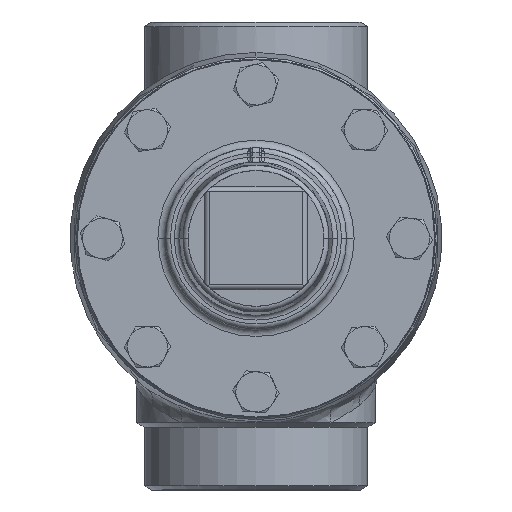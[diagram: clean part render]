
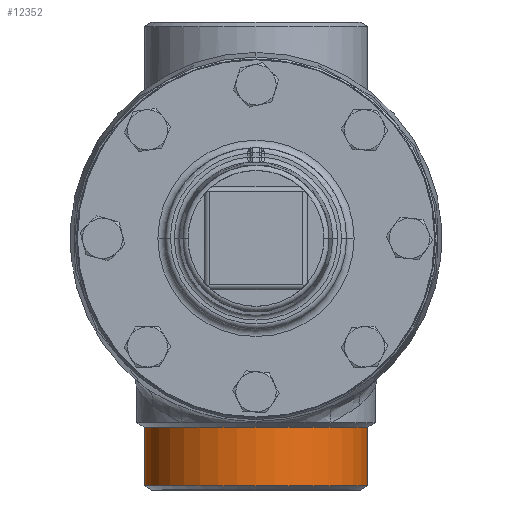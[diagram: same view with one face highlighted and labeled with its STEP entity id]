
A CAD part, front view. The second image highlights one B-rep face of the part: STEP entity #12352.
In plain terms, the highlighted cylindrical face has radius 44.45 mm (diameter 88.9 mm), a partial arc.
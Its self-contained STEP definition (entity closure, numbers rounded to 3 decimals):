
#1246 = LINE ( 'NONE', #1247, #1248 ) ;
#1247 = CARTESIAN_POINT ( 'NONE',  ( -44.45, -74., -75. ) ) ;
#1248 = VECTOR ( 'NONE', #1249, 1000. ) ;
#1249 = DIRECTION ( 'NONE',  ( 0., 0., -1. ) ) ;
#2738 = VERTEX_POINT ( 'NONE', #30944 ) ;
#19260 = FACE_OUTER_BOUND ( 'NONE', #11896, .T. ) ;
#19261 = CYLINDRICAL_SURFACE ( 'NONE', #19282, 44.45 ) ;
#19282 = AXIS2_PLACEMENT_3D ( 'NONE', #19283, #19284, #19285 ) ;
#19283 = CARTESIAN_POINT ( 'NONE',  ( 0., -74., -75. ) ) ;
#19284 = DIRECTION ( 'NONE',  ( 0., 0., -1. ) ) ;
#19285 = DIRECTION ( 'NONE',  ( -1., 0., 0. ) ) ;
#3154 = VERTEX_POINT ( 'NONE', #31146 ) ;
#3573 = EDGE_CURVE ( 'NONE', #3154, #2738, #31356, .T. ) ;
#5852 = EDGE_CURVE ( 'NONE', #3154, #8157, #1246, .T. ) ;
#6552 = ORIENTED_EDGE ( 'NONE', *, *, #5852, .F. ) ;
#7531 = EDGE_CURVE ( 'NONE', #10266, #8157, #9716, .T. ) ;
#8157 = VERTEX_POINT ( 'NONE', #11478 ) ;
#8229 = ORIENTED_EDGE ( 'NONE', *, *, #7531, .T. ) ;
#9216 = EDGE_CURVE ( 'NONE', #2738, #10266, #13137, .T. ) ;
#9716 = CIRCLE ( 'NONE', #9717, 44.45 ) ;
#9717 = AXIS2_PLACEMENT_3D ( 'NONE', #9718, #9719, #9720 ) ;
#9718 = CARTESIAN_POINT ( 'NONE',  ( 0., -74., -98.239 ) ) ;
#9719 = DIRECTION ( 'NONE',  ( 0., 0., 1. ) ) ;
#9720 = DIRECTION ( 'NONE',  ( 1., 0., 0. ) ) ;
#9926 = ORIENTED_EDGE ( 'NONE', *, *, #9216, .T. ) ;
#10266 = VERTEX_POINT ( 'NONE', #14948 ) ;
#10899 = ORIENTED_EDGE ( 'NONE', *, *, #3573, .T. ) ;
#11478 = CARTESIAN_POINT ( 'NONE',  ( -44.45, -74., -98.239 ) ) ;
#11896 = EDGE_LOOP ( 'NONE', ( #10899, #9926, #8229, #6552 ) ) ;
#12352 = ADVANCED_FACE ( 'NONE', ( #19260 ), #19261, .T. ) ;
#13137 = LINE ( 'NONE', #13138, #13139 ) ;
#13138 = CARTESIAN_POINT ( 'NONE',  ( 44.45, -74., -75. ) ) ;
#13139 = VECTOR ( 'NONE', #13140, 1000. ) ;
#13140 = DIRECTION ( 'NONE',  ( 0., 0., -1. ) ) ;
#30944 = CARTESIAN_POINT ( 'NONE',  ( 44.45, -74., -75. ) ) ;
#31146 = CARTESIAN_POINT ( 'NONE',  ( -44.45, -74., -75. ) ) ;
#14948 = CARTESIAN_POINT ( 'NONE',  ( 44.45, -74., -98.239 ) ) ;
#31356 = CIRCLE ( 'NONE', #31357, 44.45 ) ;
#31357 = AXIS2_PLACEMENT_3D ( 'NONE', #31358, #31359, #31360 ) ;
#31358 = CARTESIAN_POINT ( 'NONE',  ( 0., -74., -75. ) ) ;
#31359 = DIRECTION ( 'NONE',  ( 0., 0., -1. ) ) ;
#31360 = DIRECTION ( 'NONE',  ( -1., 0., 0. ) ) ;
